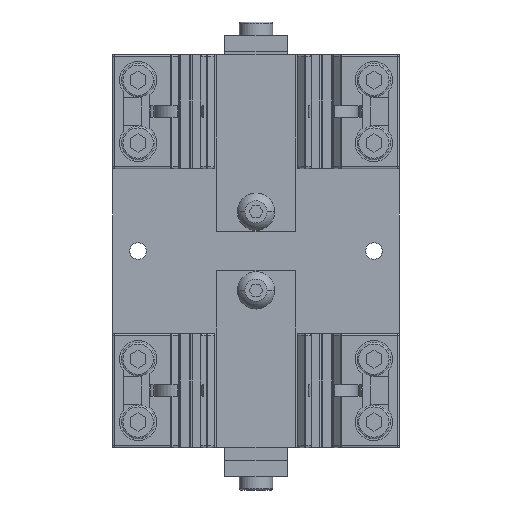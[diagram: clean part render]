
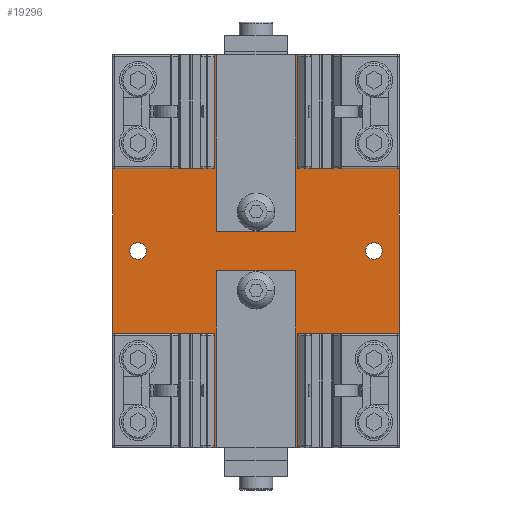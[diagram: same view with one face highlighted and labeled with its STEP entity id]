
A CAD part, front view. The second image highlights one B-rep face of the part: STEP entity #19296.
In plain terms, the highlighted planar face has unit normal (0, -1, 0).
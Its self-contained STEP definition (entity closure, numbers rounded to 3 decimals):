
#99=DIRECTION('',(1.,0.,0.));
#100=VECTOR('',#99,26.5);
#101=CARTESIAN_POINT('',(-36.5,-8.,-50.));
#102=LINE('',#101,#100);
#128=DIRECTION('',(1.,0.,0.));
#129=VECTOR('',#128,26.5);
#130=CARTESIAN_POINT('',(10.,-8.,-50.));
#131=LINE('',#130,#129);
#303=DIRECTION('',(0.,0.,-1.));
#304=VECTOR('',#303,45.);
#305=CARTESIAN_POINT('',(10.,-8.,50.));
#306=LINE('',#305,#304);
#310=DIRECTION('',(0.,0.,1.));
#311=VECTOR('',#310,45.);
#312=CARTESIAN_POINT('',(10.,-8.,-50.));
#313=LINE('',#312,#311);
#317=DIRECTION('',(-1.,0.,0.));
#318=VECTOR('',#317,20.);
#319=CARTESIAN_POINT('',(10.,-8.,-5.));
#320=LINE('',#319,#318);
#324=DIRECTION('',(0.,0.,1.));
#325=VECTOR('',#324,45.);
#326=CARTESIAN_POINT('',(-10.,-8.,-50.));
#327=LINE('',#326,#325);
#331=DIRECTION('',(0.,0.,1.));
#332=VECTOR('',#331,100.);
#333=CARTESIAN_POINT('',(-36.5,-8.,-50.));
#334=LINE('',#333,#332);
#338=DIRECTION('',(0.,0.,-1.));
#339=VECTOR('',#338,45.);
#340=CARTESIAN_POINT('',(-10.,-8.,50.));
#341=LINE('',#340,#339);
#345=DIRECTION('',(1.,0.,0.));
#346=VECTOR('',#345,20.);
#347=CARTESIAN_POINT('',(-10.,-8.,5.));
#348=LINE('',#347,#346);
#352=CARTESIAN_POINT('',(30.,-8.,0.));
#353=DIRECTION('',(0.,-1.,0.));
#354=DIRECTION('',(-1.,0.,0.));
#355=AXIS2_PLACEMENT_3D('',#352,#353,#354);
#360=CARTESIAN_POINT('',(30.,-8.,0.));
#361=DIRECTION('',(0.,-1.,0.));
#362=DIRECTION('',(1.,0.,0.));
#363=AXIS2_PLACEMENT_3D('',#360,#361,#362);
#368=CARTESIAN_POINT('',(-30.,-8.,0.));
#369=DIRECTION('',(0.,-1.,0.));
#370=DIRECTION('',(-1.,0.,0.));
#371=AXIS2_PLACEMENT_3D('',#368,#369,#370);
#376=CARTESIAN_POINT('',(-30.,-8.,0.));
#377=DIRECTION('',(0.,-1.,0.));
#378=DIRECTION('',(1.,0.,0.));
#379=AXIS2_PLACEMENT_3D('',#376,#377,#378);
#384=DIRECTION('',(1.,0.,0.));
#385=VECTOR('',#384,25.2);
#386=CARTESIAN_POINT('',(-36.1,-8.,-49.6));
#387=LINE('',#386,#385);
#391=DIRECTION('',(0.,0.,-1.));
#392=VECTOR('',#391,28.2);
#393=CARTESIAN_POINT('',(-10.9,-8.,-21.4));
#394=LINE('',#393,#392);
#398=DIRECTION('',(-1.,0.,0.));
#399=VECTOR('',#398,25.2);
#400=CARTESIAN_POINT('',(-10.9,-8.,-21.4));
#401=LINE('',#400,#399);
#405=DIRECTION('',(0.,0.,-1.));
#406=VECTOR('',#405,28.2);
#407=CARTESIAN_POINT('',(-36.1,-8.,-21.4));
#408=LINE('',#407,#406);
#412=DIRECTION('',(1.,0.,0.));
#413=VECTOR('',#412,25.2);
#414=CARTESIAN_POINT('',(-36.1,-8.,21.4));
#415=LINE('',#414,#413);
#419=DIRECTION('',(0.,0.,-1.));
#420=VECTOR('',#419,28.2);
#421=CARTESIAN_POINT('',(-10.9,-8.,49.6));
#422=LINE('',#421,#420);
#426=DIRECTION('',(-1.,0.,0.));
#427=VECTOR('',#426,25.2);
#428=CARTESIAN_POINT('',(-10.9,-8.,49.6));
#429=LINE('',#428,#427);
#433=DIRECTION('',(0.,0.,-1.));
#434=VECTOR('',#433,28.2);
#435=CARTESIAN_POINT('',(-36.1,-8.,49.6));
#436=LINE('',#435,#434);
#440=DIRECTION('',(-1.,0.,0.));
#441=VECTOR('',#440,25.2);
#442=CARTESIAN_POINT('',(36.1,-8.,49.6));
#443=LINE('',#442,#441);
#447=DIRECTION('',(0.,0.,1.));
#448=VECTOR('',#447,28.2);
#449=CARTESIAN_POINT('',(10.9,-8.,21.4));
#450=LINE('',#449,#448);
#454=DIRECTION('',(1.,0.,0.));
#455=VECTOR('',#454,25.2);
#456=CARTESIAN_POINT('',(10.9,-8.,21.4));
#457=LINE('',#456,#455);
#461=DIRECTION('',(0.,0.,1.));
#462=VECTOR('',#461,28.2);
#463=CARTESIAN_POINT('',(36.1,-8.,21.4));
#464=LINE('',#463,#462);
#468=DIRECTION('',(-1.,0.,0.));
#469=VECTOR('',#468,25.2);
#470=CARTESIAN_POINT('',(36.1,-8.,-21.4));
#471=LINE('',#470,#469);
#475=DIRECTION('',(0.,0.,1.));
#476=VECTOR('',#475,28.2);
#477=CARTESIAN_POINT('',(10.9,-8.,-49.6));
#478=LINE('',#477,#476);
#482=DIRECTION('',(1.,0.,0.));
#483=VECTOR('',#482,25.2);
#484=CARTESIAN_POINT('',(10.9,-8.,-49.6));
#485=LINE('',#484,#483);
#489=DIRECTION('',(0.,0.,1.));
#490=VECTOR('',#489,28.2);
#491=CARTESIAN_POINT('',(36.1,-8.,-49.6));
#492=LINE('',#491,#490);
#517=DIRECTION('',(1.,0.,0.));
#518=VECTOR('',#517,26.5);
#519=CARTESIAN_POINT('',(10.,-8.,50.));
#520=LINE('',#519,#518);
#545=DIRECTION('',(1.,0.,0.));
#546=VECTOR('',#545,26.5);
#547=CARTESIAN_POINT('',(-36.5,-8.,50.));
#548=LINE('',#547,#546);
#1163=DIRECTION('',(0.,0.,1.));
#1164=VECTOR('',#1163,100.);
#1165=CARTESIAN_POINT('',(36.5,-8.,-50.));
#1166=LINE('',#1165,#1164);
#16602=CARTESIAN_POINT('',(-36.5,-8.,-50.));
#16604=VERTEX_POINT('',#16602);
#16605=CARTESIAN_POINT('',(36.5,-8.,-50.));
#16607=VERTEX_POINT('',#16605);
#16610=CARTESIAN_POINT('',(-36.5,-8.,50.));
#16612=VERTEX_POINT('',#16610);
#16613=CARTESIAN_POINT('',(36.5,-8.,50.));
#16615=VERTEX_POINT('',#16613);
#16677=CARTESIAN_POINT('',(27.9,-8.,0.));
#16678=CARTESIAN_POINT('',(32.1,-8.,0.));
#16679=VERTEX_POINT('',#16677);
#16680=VERTEX_POINT('',#16678);
#16685=CARTESIAN_POINT('',(-32.1,-8.,0.));
#16686=CARTESIAN_POINT('',(-27.9,-8.,0.));
#16687=VERTEX_POINT('',#16685);
#16688=VERTEX_POINT('',#16686);
#17453=CARTESIAN_POINT('',(-36.1,-8.,-49.6));
#17454=CARTESIAN_POINT('',(-10.9,-8.,-49.6));
#17455=VERTEX_POINT('',#17453);
#17456=VERTEX_POINT('',#17454);
#17457=CARTESIAN_POINT('',(-36.1,-8.,-21.4));
#17458=VERTEX_POINT('',#17457);
#17459=CARTESIAN_POINT('',(-10.9,-8.,-21.4));
#17460=VERTEX_POINT('',#17459);
#17781=CARTESIAN_POINT('',(-36.1,-8.,21.4));
#17782=CARTESIAN_POINT('',(-10.9,-8.,21.4));
#17783=VERTEX_POINT('',#17781);
#17784=VERTEX_POINT('',#17782);
#17785=CARTESIAN_POINT('',(-36.1,-8.,49.6));
#17786=VERTEX_POINT('',#17785);
#17787=CARTESIAN_POINT('',(-10.9,-8.,49.6));
#17788=VERTEX_POINT('',#17787);
#18109=CARTESIAN_POINT('',(36.1,-8.,49.6));
#18110=CARTESIAN_POINT('',(10.9,-8.,49.6));
#18111=VERTEX_POINT('',#18109);
#18112=VERTEX_POINT('',#18110);
#18113=CARTESIAN_POINT('',(36.1,-8.,21.4));
#18114=VERTEX_POINT('',#18113);
#18115=CARTESIAN_POINT('',(10.9,-8.,21.4));
#18116=VERTEX_POINT('',#18115);
#18437=CARTESIAN_POINT('',(36.1,-8.,-21.4));
#18438=CARTESIAN_POINT('',(10.9,-8.,-21.4));
#18439=VERTEX_POINT('',#18437);
#18440=VERTEX_POINT('',#18438);
#18441=CARTESIAN_POINT('',(36.1,-8.,-49.6));
#18442=VERTEX_POINT('',#18441);
#18443=CARTESIAN_POINT('',(10.9,-8.,-49.6));
#18444=VERTEX_POINT('',#18443);
#18981=CARTESIAN_POINT('',(-10.,-8.,-50.));
#18982=CARTESIAN_POINT('',(-10.,-8.,-5.));
#18983=VERTEX_POINT('',#18981);
#18984=VERTEX_POINT('',#18982);
#18985=CARTESIAN_POINT('',(10.,-8.,-50.));
#18986=CARTESIAN_POINT('',(10.,-8.,-5.));
#18987=VERTEX_POINT('',#18985);
#18988=VERTEX_POINT('',#18986);
#19021=CARTESIAN_POINT('',(10.,-8.,50.));
#19022=CARTESIAN_POINT('',(10.,-8.,5.));
#19023=VERTEX_POINT('',#19021);
#19024=VERTEX_POINT('',#19022);
#19025=CARTESIAN_POINT('',(-10.,-8.,50.));
#19026=CARTESIAN_POINT('',(-10.,-8.,5.));
#19027=VERTEX_POINT('',#19025);
#19028=VERTEX_POINT('',#19026);
#19215=CARTESIAN_POINT('',(-36.5,-8.,-50.));
#19216=DIRECTION('',(0.,-1.,0.));
#19217=DIRECTION('',(1.,0.,0.));
#19218=AXIS2_PLACEMENT_3D('',#19215,#19216,#19217);
#19219=PLANE('',#19218);
#19221=ORIENTED_EDGE('',*,*,#19220,.F.);
#19223=ORIENTED_EDGE('',*,*,#19222,.T.);
#19225=ORIENTED_EDGE('',*,*,#19224,.F.);
#19226=ORIENTED_EDGE('',*,*,#19158,.F.);
#19228=ORIENTED_EDGE('',*,*,#19227,.T.);
#19230=ORIENTED_EDGE('',*,*,#19229,.T.);
#19232=ORIENTED_EDGE('',*,*,#19231,.F.);
#19233=ORIENTED_EDGE('',*,*,#19150,.F.);
#19235=ORIENTED_EDGE('',*,*,#19234,.T.);
#19237=ORIENTED_EDGE('',*,*,#19236,.T.);
#19239=ORIENTED_EDGE('',*,*,#19238,.T.);
#19241=ORIENTED_EDGE('',*,*,#19240,.T.);
#19242=EDGE_LOOP('',(#19221,#19223,#19225,#19226,#19228,#19230,#19232,#19233,
#19235,#19237,#19239,#19241));
#19243=FACE_OUTER_BOUND('',#19242,.F.);
#19245=ORIENTED_EDGE('',*,*,#19244,.T.);
#19247=ORIENTED_EDGE('',*,*,#19246,.T.);
#19248=EDGE_LOOP('',(#19245,#19247));
#19249=FACE_BOUND('',#19248,.F.);
#19251=ORIENTED_EDGE('',*,*,#19250,.T.);
#19253=ORIENTED_EDGE('',*,*,#19252,.T.);
#19254=EDGE_LOOP('',(#19251,#19253));
#19255=FACE_BOUND('',#19254,.F.);
#19257=ORIENTED_EDGE('',*,*,#19256,.T.);
#19259=ORIENTED_EDGE('',*,*,#19258,.F.);
#19261=ORIENTED_EDGE('',*,*,#19260,.T.);
#19263=ORIENTED_EDGE('',*,*,#19262,.T.);
#19264=EDGE_LOOP('',(#19257,#19259,#19261,#19263));
#19265=FACE_BOUND('',#19264,.F.);
#19267=ORIENTED_EDGE('',*,*,#19266,.T.);
#19269=ORIENTED_EDGE('',*,*,#19268,.F.);
#19271=ORIENTED_EDGE('',*,*,#19270,.T.);
#19273=ORIENTED_EDGE('',*,*,#19272,.T.);
#19274=EDGE_LOOP('',(#19267,#19269,#19271,#19273));
#19275=FACE_BOUND('',#19274,.F.);
#19277=ORIENTED_EDGE('',*,*,#19276,.T.);
#19279=ORIENTED_EDGE('',*,*,#19278,.F.);
#19281=ORIENTED_EDGE('',*,*,#19280,.T.);
#19283=ORIENTED_EDGE('',*,*,#19282,.T.);
#19284=EDGE_LOOP('',(#19277,#19279,#19281,#19283));
#19285=FACE_BOUND('',#19284,.F.);
#19287=ORIENTED_EDGE('',*,*,#19286,.T.);
#19289=ORIENTED_EDGE('',*,*,#19288,.F.);
#19291=ORIENTED_EDGE('',*,*,#19290,.T.);
#19293=ORIENTED_EDGE('',*,*,#19292,.T.);
#19294=EDGE_LOOP('',(#19287,#19289,#19291,#19293));
#19295=FACE_BOUND('',#19294,.F.);
#19296=ADVANCED_FACE('',(#19243,#19249,#19255,#19265,#19275,#19285,#19295),
#19219,.T.);
#356=CIRCLE('',#355,2.1);
#364=CIRCLE('',#363,2.1);
#372=CIRCLE('',#371,2.1);
#380=CIRCLE('',#379,2.1);
#19150=EDGE_CURVE('',#16604,#18983,#102,.T.);
#19158=EDGE_CURVE('',#18987,#16607,#131,.T.);
#19220=EDGE_CURVE('',#19023,#19024,#306,.T.);
#19222=EDGE_CURVE('',#19023,#16615,#520,.T.);
#19224=EDGE_CURVE('',#16607,#16615,#1166,.T.);
#19227=EDGE_CURVE('',#18987,#18988,#313,.T.);
#19229=EDGE_CURVE('',#18988,#18984,#320,.T.);
#19231=EDGE_CURVE('',#18983,#18984,#327,.T.);
#19234=EDGE_CURVE('',#16604,#16612,#334,.T.);
#19236=EDGE_CURVE('',#16612,#19027,#548,.T.);
#19238=EDGE_CURVE('',#19027,#19028,#341,.T.);
#19240=EDGE_CURVE('',#19028,#19024,#348,.T.);
#19244=EDGE_CURVE('',#16679,#16680,#356,.T.);
#19246=EDGE_CURVE('',#16680,#16679,#364,.T.);
#19250=EDGE_CURVE('',#16687,#16688,#372,.T.);
#19252=EDGE_CURVE('',#16688,#16687,#380,.T.);
#19256=EDGE_CURVE('',#17455,#17456,#387,.T.);
#19258=EDGE_CURVE('',#17460,#17456,#394,.T.);
#19260=EDGE_CURVE('',#17460,#17458,#401,.T.);
#19262=EDGE_CURVE('',#17458,#17455,#408,.T.);
#19266=EDGE_CURVE('',#17783,#17784,#415,.T.);
#19268=EDGE_CURVE('',#17788,#17784,#422,.T.);
#19270=EDGE_CURVE('',#17788,#17786,#429,.T.);
#19272=EDGE_CURVE('',#17786,#17783,#436,.T.);
#19276=EDGE_CURVE('',#18111,#18112,#443,.T.);
#19278=EDGE_CURVE('',#18116,#18112,#450,.T.);
#19280=EDGE_CURVE('',#18116,#18114,#457,.T.);
#19282=EDGE_CURVE('',#18114,#18111,#464,.T.);
#19286=EDGE_CURVE('',#18439,#18440,#471,.T.);
#19288=EDGE_CURVE('',#18444,#18440,#478,.T.);
#19290=EDGE_CURVE('',#18444,#18442,#485,.T.);
#19292=EDGE_CURVE('',#18442,#18439,#492,.T.);
